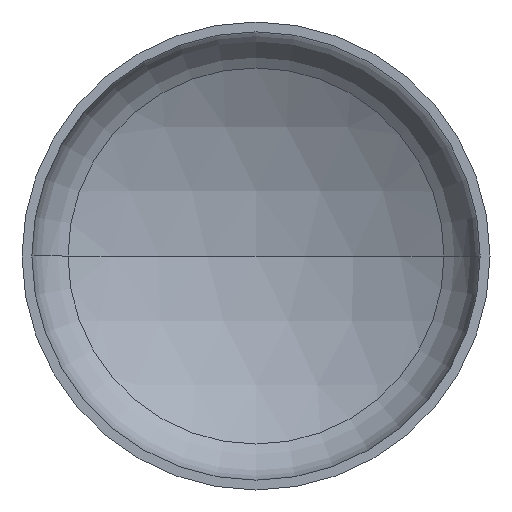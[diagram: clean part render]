
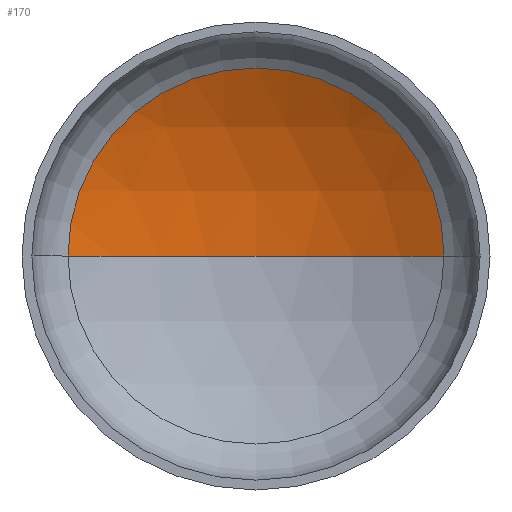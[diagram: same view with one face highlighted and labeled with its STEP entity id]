
A CAD part, front view. The second image highlights one B-rep face of the part: STEP entity #170.
In plain terms, the highlighted spherical face has radius 1600 mm.
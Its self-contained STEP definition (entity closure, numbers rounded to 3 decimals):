
#11 = EDGE_LOOP ( 'NONE', ( #66, #22, #38 ) ) ;
#16 = DIRECTION ( 'NONE',  ( 0., -1., 0. ) ) ;
#22 = ORIENTED_EDGE ( 'NONE', *, *, #155, .T. ) ;
#24 = CARTESIAN_POINT ( 'NONE',  ( 0., 398.05, 0. ) ) ;
#28 = VERTEX_POINT ( 'NONE', #355 ) ;
#30 = AXIS2_PLACEMENT_3D ( 'NONE', #371, #178, #277 ) ;
#38 = ORIENTED_EDGE ( 'NONE', *, *, #139, .T. ) ;
#43 = AXIS2_PLACEMENT_3D ( 'NONE', #194, #196, #205 ) ;
#44 = AXIS2_PLACEMENT_3D ( 'NONE', #251, #250, #249 ) ;
#48 = AXIS2_PLACEMENT_3D ( 'NONE', #24, #16, #209 ) ;
#66 = ORIENTED_EDGE ( 'NONE', *, *, #168, .F. ) ;
#70 = VERTEX_POINT ( 'NONE', #241 ) ;
#104 = VERTEX_POINT ( 'NONE', #301 ) ;
#139 = EDGE_CURVE ( 'NONE', #28, #70, #167, .T. ) ;
#155 = EDGE_CURVE ( 'NONE', #104, #28, #225, .T. ) ;
#167 = CIRCLE ( 'NONE', #48, 803.721 ) ;
#168 = EDGE_CURVE ( 'NONE', #104, #70, #236, .T. ) ;
#170 = ADVANCED_FACE ( 'NONE', ( #407 ), #404, .F. ) ;
#178 = DIRECTION ( 'NONE',  ( 0., 0., -1. ) ) ;
#194 = CARTESIAN_POINT ( 'NONE',  ( 0., -985.435, 0. ) ) ;
#196 = DIRECTION ( 'NONE',  ( 0., 0., -1. ) ) ;
#205 = DIRECTION ( 'NONE',  ( -1., 0., 0. ) ) ;
#209 = DIRECTION ( 'NONE',  ( 1., 0., 0. ) ) ;
#225 = CIRCLE ( 'NONE', #43, 1600. ) ;
#236 = CIRCLE ( 'NONE', #44, 1600. ) ;
#241 = CARTESIAN_POINT ( 'NONE',  ( -803.721, 398.05, 0. ) ) ;
#249 = DIRECTION ( 'NONE',  ( 1., 0., 0. ) ) ;
#250 = DIRECTION ( 'NONE',  ( 0., 0., 1. ) ) ;
#251 = CARTESIAN_POINT ( 'NONE',  ( 0., -985.435, 0. ) ) ;
#277 = DIRECTION ( 'NONE',  ( -1., 0., 0. ) ) ;
#301 = CARTESIAN_POINT ( 'NONE',  ( 0., 614.565, 0. ) ) ;
#355 = CARTESIAN_POINT ( 'NONE',  ( 803.721, 398.05, 0. ) ) ;
#371 = CARTESIAN_POINT ( 'NONE',  ( 0., -985.435, 0. ) ) ;
#404 = SPHERICAL_SURFACE ( 'NONE', #30, 1600. ) ;
#407 = FACE_OUTER_BOUND ( 'NONE', #11, .T. ) ;
